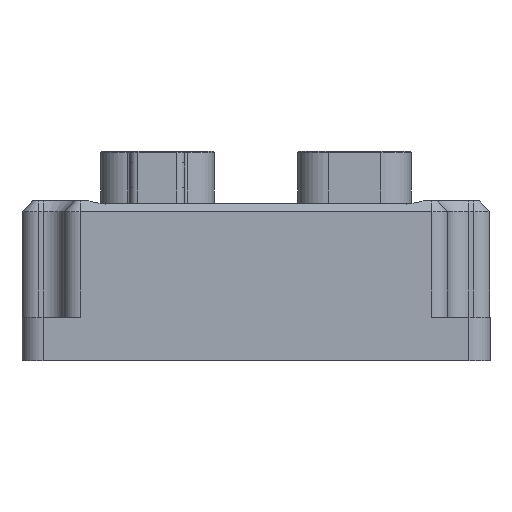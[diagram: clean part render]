
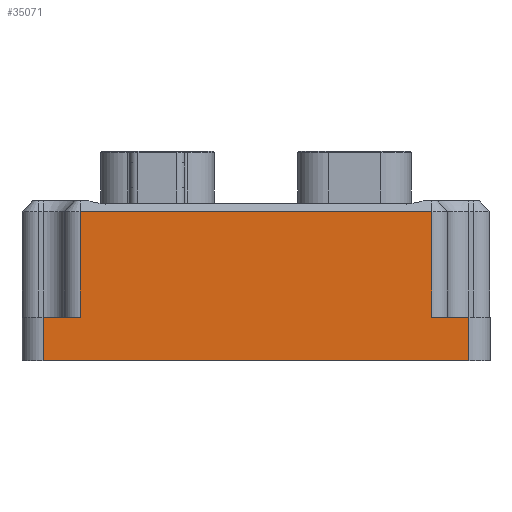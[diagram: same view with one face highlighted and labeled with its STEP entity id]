
A CAD part, left-side view. The second image highlights one B-rep face of the part: STEP entity #35071.
In plain terms, the highlighted planar face has unit normal (-1, 0, 0).
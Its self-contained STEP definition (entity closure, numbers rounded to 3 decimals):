
#11034 = VECTOR ( 'NONE', #49123, 1000. ) ;
#13401 = CARTESIAN_POINT ( 'NONE',  ( -75.391, 14.149, -11.097 ) ) ;
#17290 = CARTESIAN_POINT ( 'NONE',  ( -75.391, 14.149, 469.553 ) ) ;
#18864 = ORIENTED_EDGE ( 'NONE', *, *, #144059, .F. ) ;
#22442 = EDGE_LOOP ( 'NONE', ( #49148, #38858, #83358, #43872, #89681, #61325, #142286, #18864 ) ) ;
#23079 = VERTEX_POINT ( 'NONE', #69438 ) ;
#26987 = CARTESIAN_POINT ( 'NONE',  ( -75.391, 14.149, -30.447 ) ) ;
#30101 = EDGE_CURVE ( 'NONE', #86609, #96642, #123104, .T. ) ;
#30314 = DIRECTION ( 'NONE',  ( 0., 0., -1. ) ) ;
#33079 = VECTOR ( 'NONE', #104239, 1000. ) ;
#34061 = CARTESIAN_POINT ( 'NONE',  ( -75.391, 21.01, -30.447 ) ) ;
#35071 = ADVANCED_FACE ( 'NONE', ( #101561 ), #76595, .F. ) ;
#35585 = LINE ( 'NONE', #17290, #103488 ) ;
#36006 = CARTESIAN_POINT ( 'NONE',  ( -75.391, 14.149, -11.097 ) ) ;
#38858 = ORIENTED_EDGE ( 'NONE', *, *, #116048, .T. ) ;
#41282 = VERTEX_POINT ( 'NONE', #57475 ) ;
#43872 = ORIENTED_EDGE ( 'NONE', *, *, #30101, .F. ) ;
#44408 = VECTOR ( 'NONE', #143435, 1000. ) ;
#45402 = DIRECTION ( 'NONE',  ( 0., -1., 0. ) ) ;
#45548 = LINE ( 'NONE', #98196, #81600 ) ;
#48655 = LINE ( 'NONE', #62276, #44408 ) ;
#49123 = DIRECTION ( 'NONE',  ( 0., 1., 0. ) ) ;
#49148 = ORIENTED_EDGE ( 'NONE', *, *, #69728, .F. ) ;
#49996 = DIRECTION ( 'NONE',  ( 1., 0., 0. ) ) ;
#50979 = VECTOR ( 'NONE', #121832, 1000. ) ;
#51718 = CARTESIAN_POINT ( 'NONE',  ( -75.391, -50.407, -30.447 ) ) ;
#52914 = VERTEX_POINT ( 'NONE', #51718 ) ;
#57475 = CARTESIAN_POINT ( 'NONE',  ( -75.391, -50.407, -11.097 ) ) ;
#61325 = ORIENTED_EDGE ( 'NONE', *, *, #175547, .T. ) ;
#62276 = CARTESIAN_POINT ( 'NONE',  ( -75.391, -57.268, -9.097 ) ) ;
#62458 = VECTOR ( 'NONE', #145785, 1000. ) ;
#62716 = VERTEX_POINT ( 'NONE', #13401 ) ;
#64253 = CARTESIAN_POINT ( 'NONE',  ( -75.391, -57.268, -38.447 ) ) ;
#69001 = AXIS2_PLACEMENT_3D ( 'NONE', #131154, #49996, #144733 ) ;
#69438 = CARTESIAN_POINT ( 'NONE',  ( -75.391, -57.268, -30.447 ) ) ;
#69728 = EDGE_CURVE ( 'NONE', #41282, #52914, #148102, .T. ) ;
#70889 = CARTESIAN_POINT ( 'NONE',  ( -75.391, 14.149, -30.447 ) ) ;
#72917 = EDGE_CURVE ( 'NONE', #23079, #138456, #48655, .T. ) ;
#76595 = PLANE ( 'NONE',  #69001 ) ;
#81600 = VECTOR ( 'NONE', #45402, 1000. ) ;
#83358 = ORIENTED_EDGE ( 'NONE', *, *, #150763, .T. ) ;
#86609 = VERTEX_POINT ( 'NONE', #34061 ) ;
#87612 = VERTEX_POINT ( 'NONE', #152214 ) ;
#89681 = ORIENTED_EDGE ( 'NONE', *, *, #171744, .T. ) ;
#90592 = CARTESIAN_POINT ( 'NONE',  ( -75.391, -50.407, -30.447 ) ) ;
#96642 = VERTEX_POINT ( 'NONE', #70889 ) ;
#98196 = CARTESIAN_POINT ( 'NONE',  ( -75.391, -57.268, -38.447 ) ) ;
#98589 = LINE ( 'NONE', #132213, #62458 ) ;
#101561 = FACE_OUTER_BOUND ( 'NONE', #22442, .T. ) ;
#103488 = VECTOR ( 'NONE', #30314, 1000. ) ;
#104239 = DIRECTION ( 'NONE',  ( 0., -1., 0. ) ) ;
#110488 = CARTESIAN_POINT ( 'NONE',  ( -75.391, -50.407, 469.553 ) ) ;
#116048 = EDGE_CURVE ( 'NONE', #41282, #62716, #119207, .T. ) ;
#119207 = LINE ( 'NONE', #36006, #11034 ) ;
#121832 = DIRECTION ( 'NONE',  ( 0., -1., 0. ) ) ;
#123104 = LINE ( 'NONE', #26987, #50979 ) ;
#126893 = VECTOR ( 'NONE', #137763, 1000. ) ;
#131154 = CARTESIAN_POINT ( 'NONE',  ( -75.391, -57.268, -9.097 ) ) ;
#132213 = CARTESIAN_POINT ( 'NONE',  ( -75.391, 21.01, -9.097 ) ) ;
#137763 = DIRECTION ( 'NONE',  ( 0., 0., -1. ) ) ;
#138456 = VERTEX_POINT ( 'NONE', #64253 ) ;
#141231 = LINE ( 'NONE', #90592, #33079 ) ;
#142286 = ORIENTED_EDGE ( 'NONE', *, *, #72917, .F. ) ;
#143435 = DIRECTION ( 'NONE',  ( 0., 0., -1. ) ) ;
#144059 = EDGE_CURVE ( 'NONE', #52914, #23079, #141231, .T. ) ;
#144733 = DIRECTION ( 'NONE',  ( 0., 0., 1. ) ) ;
#145785 = DIRECTION ( 'NONE',  ( 0., 0., -1. ) ) ;
#148102 = LINE ( 'NONE', #110488, #126893 ) ;
#150763 = EDGE_CURVE ( 'NONE', #62716, #96642, #35585, .T. ) ;
#152214 = CARTESIAN_POINT ( 'NONE',  ( -75.391, 21.01, -38.447 ) ) ;
#171744 = EDGE_CURVE ( 'NONE', #86609, #87612, #98589, .T. ) ;
#175547 = EDGE_CURVE ( 'NONE', #87612, #138456, #45548, .T. ) ;
